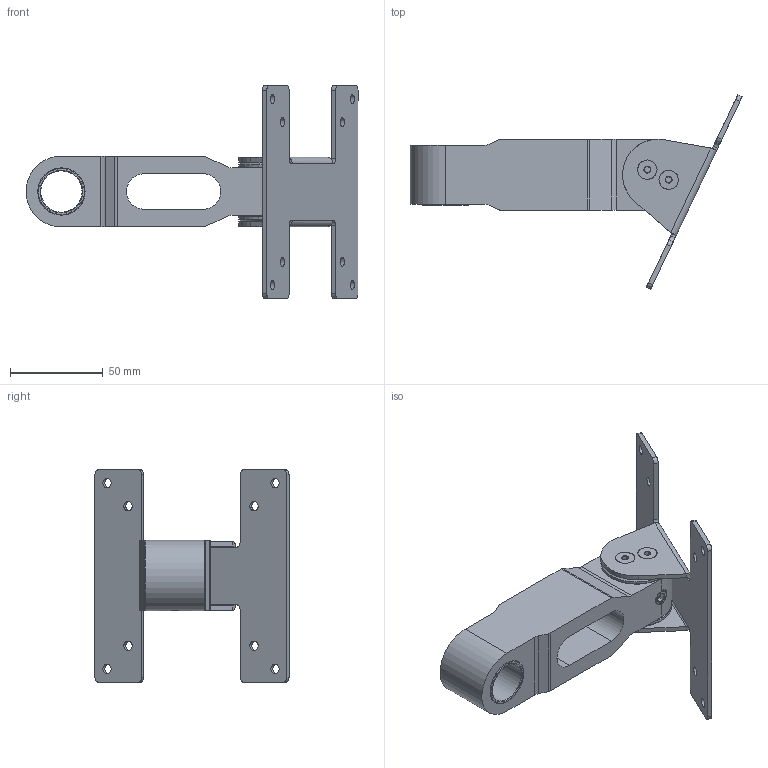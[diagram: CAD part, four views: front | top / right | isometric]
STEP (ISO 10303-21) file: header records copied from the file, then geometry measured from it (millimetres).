
FILE_DESCRIPTION (( 'STEP AP203' ), '1' );
FILE_NAME ('70-0060-00 REV 3, VESA MONITOR MOUNTING ATTACHMENT.STEP', '2016-04-26T16:08:00', ( '' ), ( '' ), 'SwSTEP 2.0', 'SolidWorks 2012', '' );
FILE_SCHEMA (( 'CONFIG_CONTROL_DESIGN' ));
Length unit declared in the file: inch
Products named in the file (10): 016-008-00, OILITE PLUS BEARING, 0.876 id x 1.002 od x 1.25 lg; 016-012-00; 71-1061-0X REV 2, BODY, VESA, RAW_MACHINE; 002-088-00_002-088-00; 007-036-00, SHSS, QUARTER20, .25L_007-036-00; 70-0060-00 REV 3, VESA MONITOR MOUNTING ATTACHMENT; 11-0062-00 REV 2, BRACKET, VESA, SHEETMETAL, BLACK; 007-034-00_007-034-00; 41-0063-00 REV 1, PIN, TILT, VESA; 11-0027-10 REV 2, PLASTIC DISC, VESA
Assembly tree (13 placements, depth 2):
  70-0060-00 REV 3, VESA MONITOR MOUNTING ATTACHMENT
    71-1061-0X REV 2, BODY, VESA, RAW_MACHINE
    016-008-00, OILITE PLUS BEARING, 0.876 id x 1.002 od x 1.25 lg
    016-012-00
    007-034-00_007-034-00
    41-0063-00 REV 1, PIN, TILT, VESA
    11-0027-10 REV 2, PLASTIC DISC, VESA  x2
    11-0062-00 REV 2, BRACKET, VESA, SHEETMETAL, BLACK
    002-088-00_002-088-00  x4
    007-036-00, SHSS, QUARTER20, .25L_007-036-00
Bounding box: 178.51 x 104.33 x 114.3 mm (x, y, z)
Volume: 166171.6 mm3; surface area: 71812.6 mm2
Topology: 13 solids, 13 shells, 550 faces, 1405 edges, 875 vertices
Faces by surface type: cylinder 284, cone 120, plane 108, torus 20, bspline 18
Entity records: 14607 total; most frequent: CARTESIAN_POINT 6177, ORIENTED_EDGE 1566, DIRECTION 1489, EDGE_CURVE 783, AXIS2_PLACEMENT_3D 578, VERTEX_POINT 486, EDGE_LOOP 361, LINE 333
